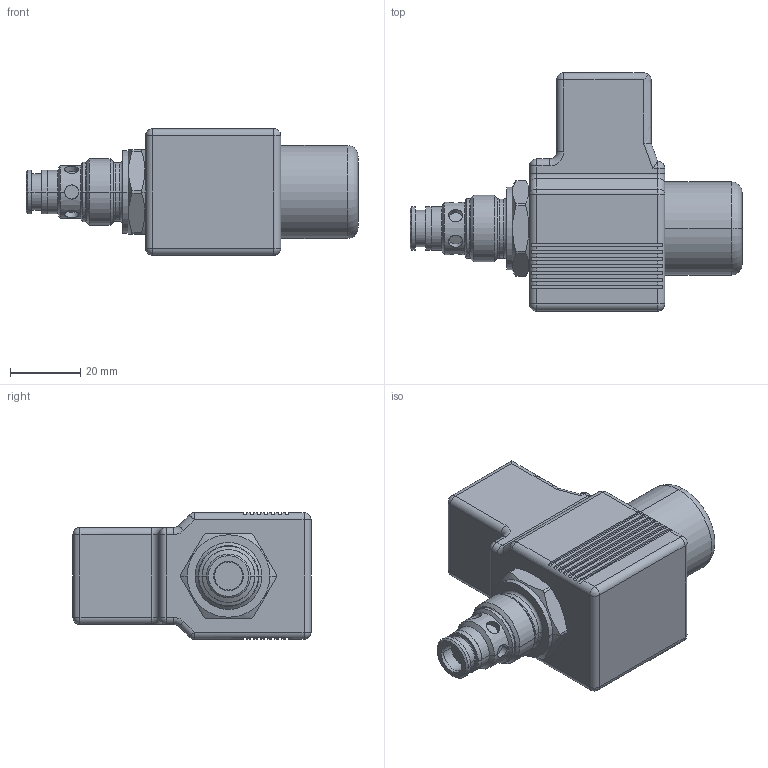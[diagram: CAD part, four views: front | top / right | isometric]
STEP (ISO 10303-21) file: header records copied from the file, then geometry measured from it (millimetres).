
FILE_DESCRIPTION((''),'2;1');
FILE_NAME('SD3E_A2_S','2011-03-14T',('tvatras'),(''),'PRO/ENGINEER BY PARAMETRIC TECHNOLOGY CORPORATION, 2010180','PRO/ENGINEER BY PARAMETRIC TECHNOLOGY CORPORATION, 2010180','');
FILE_SCHEMA(('CONFIG_CONTROL_DESIGN'));
Length unit declared in the file: millimetre
Products named in the file (1): SD3E_A2_S
Bounding box: 94.55 x 67.8 x 36 mm (x, y, z)
Volume: 88956.6 mm3; surface area: 18154.8 mm2
Topology: 1 solids, 3 shells, 225 faces, 556 edges, 334 vertices
Faces by surface type: plane 92, cylinder 83, cone 18, torus 16, sphere 14, extrusion 2
Entity records: 6823 total; most frequent: CARTESIAN_POINT 1397, DIRECTION 1212, ORIENTED_EDGE 1078, EDGE_CURVE 541, AXIS2_PLACEMENT_3D 475, VERTEX_POINT 332, VECTOR 262, LINE 260
